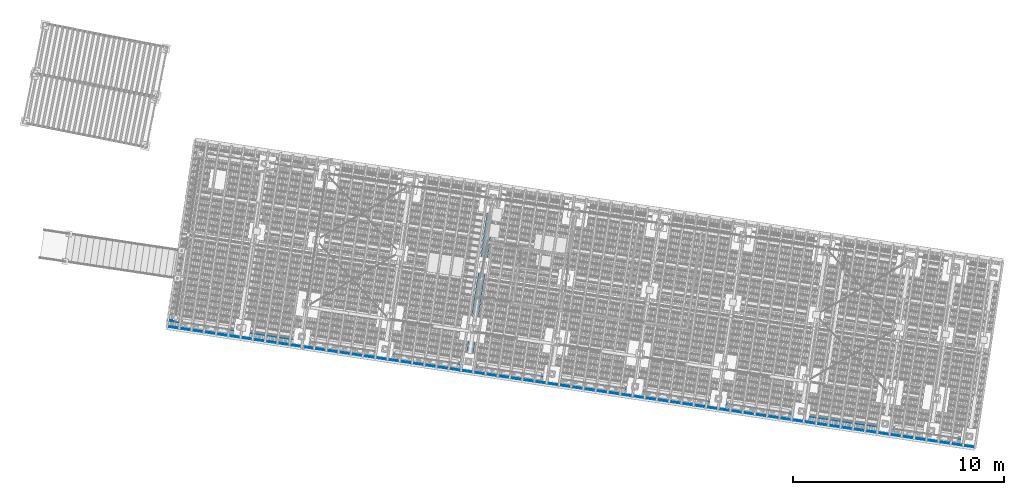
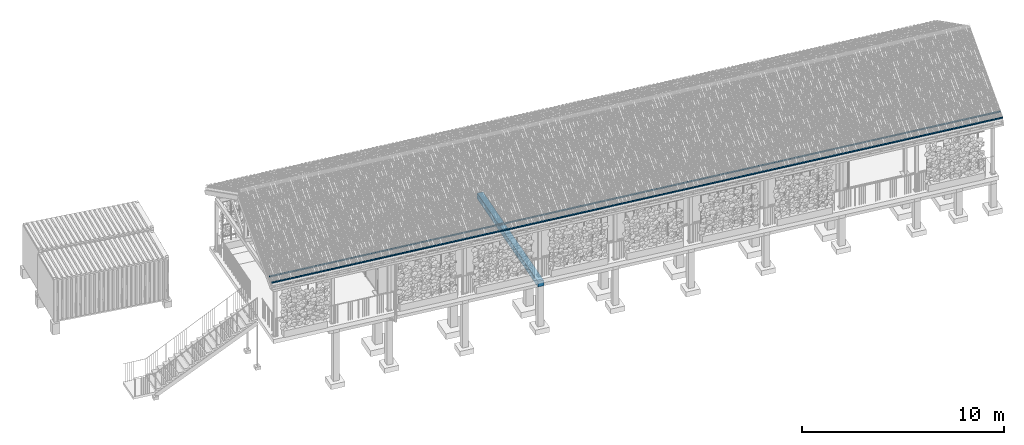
# One storey, part 59 of 131: 2 members, 1 beam, 2 elements without a shape of their own.
"""IFC4 building model written with IfcOpenShell, lengths in metres."""

import ifcopenshell
import ifcopenshell.guid

model = None  # the IFC model being written
_history = None  # IfcOwnerHistory: only IFC2X3 demands one
_inside = {}  # id of a spatial element -> (the spatial element, [elements in it])
_under = {}  # id of a project, library or spatial element -> (it, [spatial elements below it])
_declared = {}  # id of a project -> (the project, [libraries it declares])
_typed = {}  # id of a type object -> (the type object, [elements of that type])
_made_of = {}  # id of a material, layer set ... -> (it, [elements and type objects made of it])


def new_model(schema):
    """Start an empty IFC model of exactly this schema.

    Asked for "IFC4X3", IfcOpenShell would pick the latest addendum, in which some entities
    have other attributes; the version numbers below select the first issue.
    IFC2X3 requires an IfcOwnerHistory on every rooted entity: one is made here for all.
    """
    global model, _history
    if schema == "IFC4X3":
        model = ifcopenshell.file(schema_version=(4, 3, 0, 0))
    else:
        model = ifcopenshell.file(schema=schema)
    _inside.clear()
    _under.clear()
    _declared.clear()
    _typed.clear()
    _made_of.clear()
    _history = None
    if model.schema == "IFC2X3":
        org = make("IfcOrganization", Name="unknown")
        user = make(
            "IfcPersonAndOrganization",
            ThePerson=make("IfcPerson", FamilyName="unknown"),
            TheOrganization=org,
        )
        app = make(
            "IfcApplication",
            ApplicationDeveloper=org,
            Version="unknown",
            ApplicationFullName="unknown",
            ApplicationIdentifier="unknown",
        )
        _history = make(
            "IfcOwnerHistory",
            OwningUser=user,
            OwningApplication=app,
            ChangeAction="ADDED",
            CreationDate=0,
        )
    return model


def make(cls, **values):
    """One entity of the class cls with the attributes given. An attribute that is None is left unset."""
    return model.create_entity(
        cls, **{name: value for name, value in values.items() if value is not None}
    )


def rooted(cls, **values):
    """An entity with a GlobalId (a new one), such as an element, a storey or a relation."""
    return make(cls, GlobalId=ifcopenshell.guid.new(), OwnerHistory=_history, **values)


def si_unit(unit_type, name, prefix=None):
    """IfcSIUnit, for example si_unit("LENGTHUNIT", "METRE", prefix="MILLI")."""
    return make("IfcSIUnit", UnitType=unit_type, Prefix=prefix, Name=name)


def assignment(units):
    """IfcUnitAssignment: the units of a project."""
    return None if units is None else make("IfcUnitAssignment", Units=units)


def point(xyz):
    """IfcCartesianPoint."""
    return None if xyz is None else make("IfcCartesianPoint", Coordinates=xyz)


def direction(xyz):
    """IfcDirection."""
    return None if xyz is None else make("IfcDirection", DirectionRatios=xyz)


def frame(location, z_axis=None, x_axis=None):
    """IfcAxis2Placement3D, a coordinate frame: its origin and axes. An axis left out is left unset."""
    return make(
        "IfcAxis2Placement3D",
        Location=point(location),
        Axis=direction(z_axis),
        RefDirection=direction(x_axis),
    )


def origin_with_axes():
    """The frame at (0, 0, 0) with the z axis (0, 0, 1) and the x axis (1, 0, 0) written out."""
    return frame((0.0, 0.0, 0.0), z_axis=(0.0, 0.0, 1.0), x_axis=(1.0, 0.0, 0.0))


def place(relative_to, where):
    """IfcLocalPlacement: puts the frame where relative to a parent placement (None: the world)."""
    return make(
        "IfcLocalPlacement", PlacementRelTo=relative_to, RelativePlacement=where
    )


def context(
    kind, dimensions, precision=None, world=None, true_north=None, identifier=None
):
    """IfcGeometricRepresentationContext, for example the 3D "Model" context."""
    return make(
        "IfcGeometricRepresentationContext",
        ContextIdentifier=identifier,
        ContextType=kind,
        CoordinateSpaceDimension=dimensions,
        Precision=precision,
        WorldCoordinateSystem=world,
        TrueNorth=true_north,
    )


def subcontext(parent, identifier, kind, view, scale=None):
    """IfcGeometricRepresentationSubContext, for example "Body" below "Model"."""
    return make(
        "IfcGeometricRepresentationSubContext",
        ContextIdentifier=identifier,
        ContextType=kind,
        ParentContext=parent,
        TargetScale=scale,
        TargetView=view,
    )


def project(units=None, contexts=None):
    """IfcProject with its units and contexts."""
    return rooted(
        "IfcProject",
        Name="project",
        RepresentationContexts=contexts,
        UnitsInContext=assignment(units),
    )


def spatial(cls, under=None, at=None, **own):
    """A site, building, storey or space (cls), placed at a placement, below another one or the project."""
    s = rooted(cls, ObjectPlacement=at, **own)
    if under is not None:
        _under.setdefault(under.id(), (under, []))[1].append(s)
    return s


def polyline(points):
    """IfcPolyline through the points."""
    return make("IfcPolyline", Points=[point(p) for p in points])


def profile(cls, at=None, kind="AREA", **sizes):
    """A parametric profile (cls). Its sizes go by their IFC names, for example OverallWidth=200.0."""
    return make(cls, ProfileType=kind, Position=at, **sizes)


def rectangle(**sizes):
    """IfcRectangleProfileDef."""
    return profile("IfcRectangleProfileDef", **sizes)


def outline(outer, holes=None, kind="AREA"):
    """IfcArbitraryClosedProfileDef: a profile drawn as a closed curve; with holes, ...WithVoids."""
    if holes is None:
        return make("IfcArbitraryClosedProfileDef", ProfileType=kind, OuterCurve=outer)
    return make(
        "IfcArbitraryProfileDefWithVoids",
        ProfileType=kind,
        OuterCurve=outer,
        InnerCurves=holes,
    )


def extrude(swept, where, along, depth):
    """IfcExtrudedAreaSolid: the profile swept, set in the frame where, extruded along a direction by depth."""
    return make(
        "IfcExtrudedAreaSolid",
        SweptArea=swept,
        Position=where,
        ExtrudedDirection=direction(along),
        Depth=depth,
    )


def shape(context_of_items, identifier, shape_type, items):
    """IfcShapeRepresentation: the items that make up one representation, for example the "Body"."""
    return make(
        "IfcShapeRepresentation",
        ContextOfItems=context_of_items,
        RepresentationIdentifier=identifier,
        RepresentationType=shape_type,
        Items=items,
    )


def material(Name=None, Category=None):
    """IfcMaterial."""
    return make("IfcMaterial", Name=Name, Category=Category)


def material_profile(
    of_material, cross_section, Name=None, Category=None, Priority=None
):
    """IfcMaterialProfile: a cross section and its material."""
    return make(
        "IfcMaterialProfile",
        Name=Name,
        Material=of_material,
        Profile=cross_section,
        Priority=Priority,
        Category=Category,
    )


def profile_set(profiles, Name=None, composite=None):
    """IfcMaterialProfileSet."""
    return make(
        "IfcMaterialProfileSet",
        Name=Name,
        MaterialProfiles=profiles,
        CompositeProfile=composite,
    )


def profile_usage(for_profile_set, cardinal=None, extent=None):
    """IfcMaterialProfileSetUsage: how a profile set lies along its element."""
    return make(
        "IfcMaterialProfileSetUsage",
        ForProfileSet=for_profile_set,
        CardinalPoint=cardinal,
        ReferenceExtent=extent,
    )


def made_of(thing, what):
    """Note that an element or type object is made of a material, layer set ...; save() writes the relation."""
    if what is not None:
        _made_of.setdefault(what.id(), (what, []))[1].append(thing)
    return thing


def type_object(cls, material=None, **own):
    """A type object (cls), such as IfcWallType, which elements share."""
    return made_of(rooted(cls, **own), material)


def element(
    cls,
    number,
    at=None,
    inside=None,
    cuts=None,
    type_object=None,
    material=None,
    context=None,
    identifier="Body",
    shape_type=None,
    held_by="IfcProductDefinitionShape",
    body=None,
    shapes=None,
    **own,
):
    """One element of the class cls, such as IfcWall. Its Tag is "e" and its number.

    at: its placement. inside: the storey or other place that contains it. cuts: it is an
    opening in that element (IfcRelVoidsElement). A single representation is given by context,
    identifier, shape_type and body (its items); several are given by shapes. held_by: the class
    of the entity that holds the representations. save() writes the other relations.
    """
    e = rooted(cls, Tag="e%d" % number, ObjectPlacement=at, **own)
    if body is not None:
        shapes = [shape(context, identifier, shape_type, body)]
    if shapes is not None:
        e.Representation = make(held_by, Representations=shapes)
    if inside is not None:
        _inside.setdefault(inside.id(), (inside, []))[1].append(e)
    if cuts is not None:
        rooted(
            "IfcRelVoidsElement", RelatingBuildingElement=cuts, RelatedOpeningElement=e
        )
    if type_object is not None:
        _typed.setdefault(type_object.id(), (type_object, []))[1].append(e)
    return made_of(e, material)


def aggregate(whole, parts):
    """IfcRelAggregates: a whole, such as a stair, and the parts it consists of."""
    return rooted("IfcRelAggregates", RelatingObject=whole, RelatedObjects=parts)


def save(model, path):
    """Write the relations noted so far, then the file.

    IfcRelAggregates (storeys below a building ...), IfcRelContainedInSpatialStructure (elements
    in a storey), IfcRelDefinesByType, IfcRelAssociatesMaterial and IfcRelDeclares: one each for
    every whole, place, type object, material and project.
    """
    for whole, parts in _under.values():
        aggregate(whole, parts)
    for where, things in _inside.values():
        rooted(
            "IfcRelContainedInSpatialStructure",
            RelatedElements=things,
            RelatingStructure=where,
        )
    for kind, things in _typed.values():
        rooted("IfcRelDefinesByType", RelatedObjects=things, RelatingType=kind)
    for what, things in _made_of.values():
        rooted("IfcRelAssociatesMaterial", RelatedObjects=things, RelatingMaterial=what)
    for by, libraries in _declared.values():
        rooted("IfcRelDeclares", RelatingContext=by, RelatedDefinitions=libraries)
    model.write(path)


model = new_model("IFC4")

# Units and contexts
model_context = context("Model", 3, precision=1e-05, world=origin_with_axes(), true_north=direction((0.0, 1.0)))
body_context = subcontext(model_context, "Body", "Model", "MODEL_VIEW")
ifc_project = project(units=[si_unit("VOLUMEUNIT", "CUBIC_METRE"), si_unit("LENGTHUNIT", "METRE"), si_unit("AREAUNIT", "SQUARE_METRE")], contexts=[model_context])

# Site, building, storey
site_placement = place(None, origin_with_axes())
site = spatial("IfcSite", under=ifc_project, at=site_placement, Name="Lares · Rua das Mercês · artigo 4771")
building_placement = place(site_placement, frame((15.0, 9.7, 15.8), z_axis=(0.0, 0.0, 1.0), x_axis=(0.989015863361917, -0.147809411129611, 0.0)))
building = spatial("IfcBuilding", under=site, at=building_placement, Name="Casa Sobreposta")
storey_placement = place(building_placement, origin_with_axes())
storey = spatial("IfcBuildingStorey", under=building, at=storey_placement, Name="00 · Habitação e estacionamento", Elevation=15.8)

# Roof, members
ifc_material_1 = material(Name="Madeira / Bauholz", Category="wood")
roof_placement = place(storey_placement, origin_with_axes())
roof = element("IfcRoof", 1, at=roof_placement, inside=storey, material=ifc_material_1, Name="Cobertura de telha · duas águas 30 graus", PredefinedType="GABLE_ROOF")
ifc_material_profile = material_profile(ifc_material_1, rectangle(XDim=0.045, YDim=0.06))
ifc_profile_set = profile_set([ifc_material_profile], Name="TIMBER0.045x0.060")
ifc_profile_usage_1 = profile_usage(ifc_profile_set)
member_type = type_object("IfcMemberType", Name="TIMBER0.045x0.060 / timber", PredefinedType="NOTDEFINED", material=ifc_profile_set)
member_1_placement = place(roof_placement, frame((-6.4, -1.9, 3.534), z_axis=(1.0, 0.0, 0.0), x_axis=(0.0, -1.0, 0.0)))
member_1 = element("IfcMember", 2, at=member_1_placement, type_object=member_type, material=ifc_profile_usage_1, Name="Cobertura · ripa ventilada", context=body_context, shape_type="SweptSolid", body=[
    extrude(rectangle(XDim=0.045, YDim=0.06), origin_with_axes(), (0.0, 0.0, 1.0), 38.8),
])
ifc_profile_usage_2 = profile_usage(ifc_profile_set)
member_2_placement = place(roof_placement, frame((-6.4, -1.6, 3.70720508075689), z_axis=(1.0, 0.0, 0.0), x_axis=(0.0, -1.0, 0.0)))
member_2 = element("IfcMember", 3, at=member_2_placement, type_object=member_type, material=ifc_profile_usage_2, Name="Cobertura · ripa ventilada", context=body_context, shape_type="SweptSolid", body=[
    extrude(rectangle(XDim=0.045, YDim=0.06), origin_with_axes(), (0.0, 0.0, 1.0), 38.8),
])
aggregate(roof, [member_1, member_2])

# Assembly, beam
assembly_placement = place(storey_placement, origin_with_axes())
assembly = element("IfcElementAssembly", 4, at=assembly_placement, inside=storey, Name="Pódio · terraço, casa térrea e cisterna", ObjectType="CISTERN_PODIUM", PredefinedType="USERDEFINED")
ifc_material_2 = material(Name="Betão armado / Stahlbeton", Category="concrete")
beam_placement = place(assembly_placement, frame((0.0, 0.0, -0.59), z_axis=(0.0, 0.0, 1.0), x_axis=(1.0, 0.0, 0.0)))
beam = element("IfcBeam", 5, at=beam_placement, material=ifc_material_2, Name="Pódio suspenso · viga transversal", context=body_context, shape_type="SweptSolid", body=[
    extrude(outline(polyline([(8.16, -1.59), (8.16, 6.59), (7.84, 6.59), (7.84, -1.59), (8.16, -1.59)])), origin_with_axes(), (0.0, 0.0, 1.0), 0.34),
])
aggregate(assembly, [beam])

save(model, "model.ifc")
